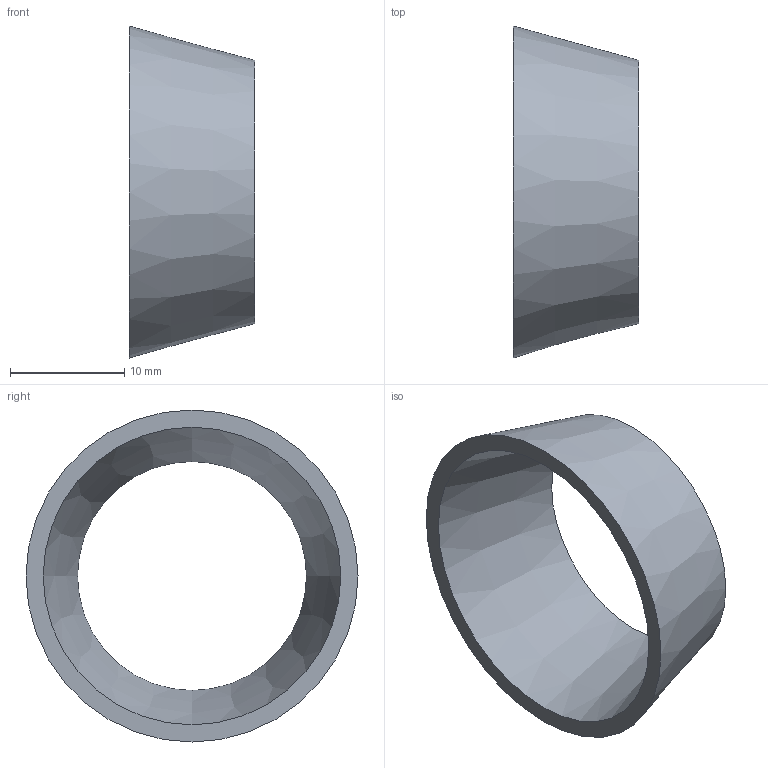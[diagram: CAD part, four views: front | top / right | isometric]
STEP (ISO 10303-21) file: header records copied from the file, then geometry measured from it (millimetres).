
FILE_DESCRIPTION(('FreeCAD Model'),'2;1');
FILE_NAME( '/home/martin/Documents/proyect/accesorios/stp/red-con_DN25-20.step', '2017-12-31T12:22:52',('Author'),(''), 'Open CASCADE STEP processor 6.8','FreeCAD','Unknown');
FILE_SCHEMA(('AUTOMOTIVE_DESIGN_CC2 { 1 2 10303 214 -1 1 5 4 }'));
Length unit declared in the file: millimetre
Products named in the file (1): red-con_DN25-20
Bounding box: 11 x 29 x 29 mm (x, y, z)
Volume: 1270 mm3; surface area: 1986.1 mm2
Topology: 1 solids, 1 shells, 4 faces, 6 edges, 4 vertices
Faces by surface type: cone 2, plane 2
Entity records: 191 total; most frequent: CARTESIAN_POINT 33, DIRECTION 26, ORIENTED_EDGE 12, PCURVE 12, DEFINITIONAL_REPRESENTATION 12, AXIS2_PLACEMENT_3D 9, CIRCLE 8, FACE_BOUND 6
